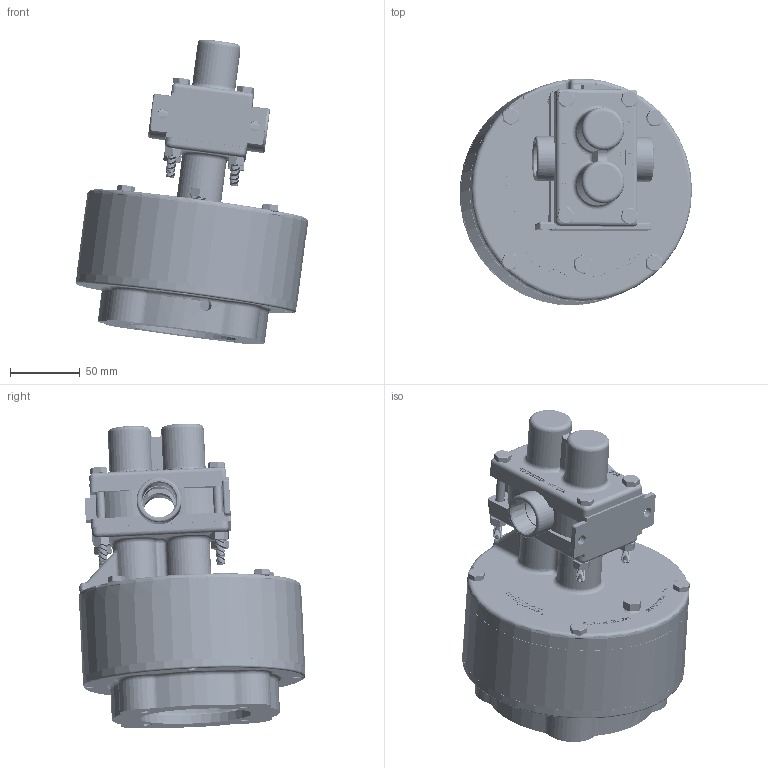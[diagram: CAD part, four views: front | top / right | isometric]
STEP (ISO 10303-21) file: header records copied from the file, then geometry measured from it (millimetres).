
FILE_DESCRIPTION (( 'STEP AP214' ), '1' );
FILE_NAME ('GMC6 FNPT IEC80 NO MOTOR.STEP', '2025-10-01T17:20:37', ( '' ), ( '' ), 'SwSTEP 2.0', 'SolidWorks 2024', '' );
FILE_SCHEMA (( 'AUTOMOTIVE_DESIGN' ));
Length unit declared in the file: inch
Products named in the file (1): GMC6 FNPT IEC80 NO MOTOR
Bounding box: 166.35 x 162.08 x 218.57 mm (x, y, z)
Volume: 807129.8 mm3; surface area: 270534.1 mm2
Topology: 25 solids, 25 shells, 3746 faces, 8923 edges, 5336 vertices
Faces by surface type: cylinder 1271, cone 1011, plane 954, bspline 366, torus 124, sphere 20
Entity records: 149086 total; most frequent: CARTESIAN_POINT 66533, ORIENTED_EDGE 17810, DIRECTION 15821, EDGE_CURVE 8905, AXIS2_PLACEMENT_3D 5612, VERTEX_POINT 5336, LINE 4597, VECTOR 4597
